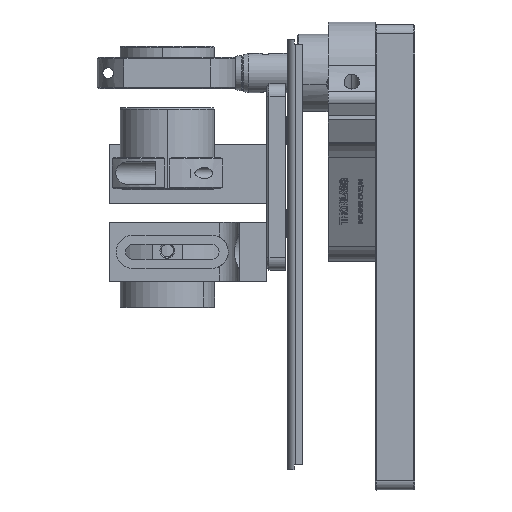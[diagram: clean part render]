
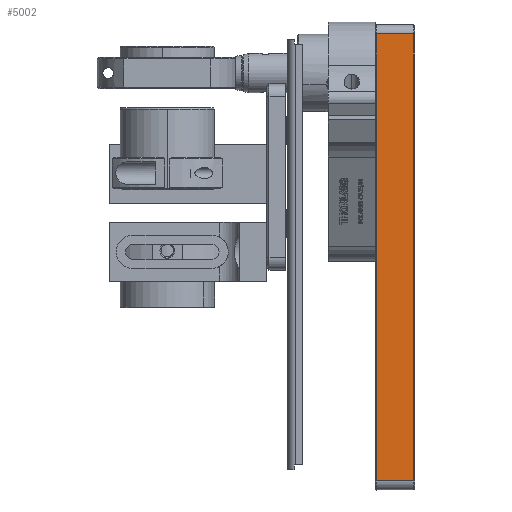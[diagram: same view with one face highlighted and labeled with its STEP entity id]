
A CAD part, left-side view. The second image highlights one B-rep face of the part: STEP entity #5002.
In plain terms, the highlighted planar face has unit normal (-1, 0, 0).
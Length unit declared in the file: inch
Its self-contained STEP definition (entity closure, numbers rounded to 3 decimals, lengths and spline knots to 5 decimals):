
#5002 = ADVANCED_FACE ( 'NONE', ( #199036 ), #43980, .F. ) ;
#14311 = EDGE_CURVE ( 'NONE', #193983, #187824, #79103, .T. ) ;
#14780 = LINE ( 'NONE', #15626, #137515 ) ;
#15626 = CARTESIAN_POINT ( 'NONE',  ( -2.95276, -3.12944, -4.19787 ) ) ;
#24727 = VERTEX_POINT ( 'NONE', #142018 ) ;
#41164 = LINE ( 'NONE', #71722, #168977 ) ;
#43980 = PLANE ( 'NONE',  #209380 ) ;
#45905 = ORIENTED_EDGE ( 'NONE', *, *, #186036, .F. ) ;
#46828 = DIRECTION ( 'NONE',  ( 1., 0., 0. ) ) ;
#60061 = DIRECTION ( 'NONE',  ( 0., 0., -1. ) ) ;
#70526 = CARTESIAN_POINT ( 'NONE',  ( -2.95276, -3.12944, -4.19787 ) ) ;
#71722 = CARTESIAN_POINT ( 'NONE',  ( -2.95276, -2.64125, -9.86716 ) ) ;
#79103 = LINE ( 'NONE', #92270, #112817 ) ;
#83680 = DIRECTION ( 'NONE',  ( 0., 0., -1. ) ) ;
#88529 = DIRECTION ( 'NONE',  ( 0., 1., 0. ) ) ;
#92270 = CARTESIAN_POINT ( 'NONE',  ( -2.95276, -2.64125, -4.19787 ) ) ;
#92501 = CARTESIAN_POINT ( 'NONE',  ( -2.95276, -2.65306, -4.19787 ) ) ;
#98355 = ORIENTED_EDGE ( 'NONE', *, *, #178994, .F. ) ;
#106851 = VECTOR ( 'NONE', #108059, 39.37008 ) ;
#108059 = DIRECTION ( 'NONE',  ( 0., 0., 1. ) ) ;
#112817 = VECTOR ( 'NONE', #143260, 39.37008 ) ;
#122719 = ORIENTED_EDGE ( 'NONE', *, *, #14311, .F. ) ;
#137515 = VECTOR ( 'NONE', #83680, 39.37008 ) ;
#142018 = CARTESIAN_POINT ( 'NONE',  ( -2.95276, -3.12944, -9.86716 ) ) ;
#143260 = DIRECTION ( 'NONE',  ( 0., -1., 0. ) ) ;
#145264 = EDGE_LOOP ( 'NONE', ( #163804, #122719, #45905, #98355 ) ) ;
#149830 = EDGE_CURVE ( 'NONE', #187824, #24727, #14780, .T. ) ;
#159190 = CARTESIAN_POINT ( 'NONE',  ( -2.95276, -2.65306, -4.19787 ) ) ;
#159414 = CARTESIAN_POINT ( 'NONE',  ( -2.95276, -2.65306, -9.86716 ) ) ;
#161727 = LINE ( 'NONE', #159190, #106851 ) ;
#163804 = ORIENTED_EDGE ( 'NONE', *, *, #149830, .F. ) ;
#168977 = VECTOR ( 'NONE', #88529, 39.37008 ) ;
#178994 = EDGE_CURVE ( 'NONE', #24727, #183835, #41164, .T. ) ;
#183835 = VERTEX_POINT ( 'NONE', #159414 ) ;
#186036 = EDGE_CURVE ( 'NONE', #183835, #193983, #161727, .T. ) ;
#187824 = VERTEX_POINT ( 'NONE', #70526 ) ;
#193983 = VERTEX_POINT ( 'NONE', #92501 ) ;
#196252 = CARTESIAN_POINT ( 'NONE',  ( -2.95276, -2.64125, -4.19787 ) ) ;
#199036 = FACE_OUTER_BOUND ( 'NONE', #145264, .T. ) ;
#209380 = AXIS2_PLACEMENT_3D ( 'NONE', #196252, #46828, #60061 ) ;
